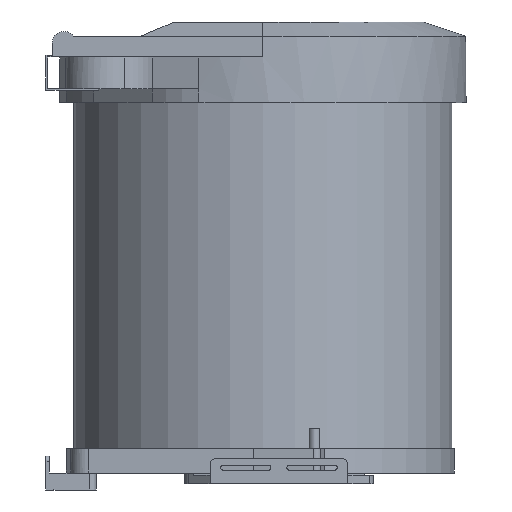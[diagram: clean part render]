
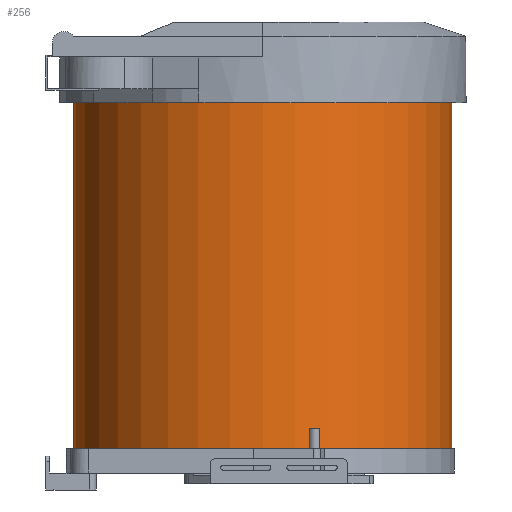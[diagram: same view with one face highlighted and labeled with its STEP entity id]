
A CAD part, front view. The second image highlights one B-rep face of the part: STEP entity #256.
In plain terms, the highlighted cylindrical face has radius 178.5 mm (diameter 357 mm), a partial arc.
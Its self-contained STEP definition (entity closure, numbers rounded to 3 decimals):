
#256=ADVANCED_FACE('',(#637),#638,.T.);
#637=FACE_OUTER_BOUND('',#1161,.T.);
#638=CYLINDRICAL_SURFACE('',#1162,178.5);
#1161=EDGE_LOOP('',(#1885,#1886,#1887,#1888));
#1162=AXIS2_PLACEMENT_3D('',#1889,#1890,#1891);
#1885=ORIENTED_EDGE('',*,*,#3233,.F.);
#1886=ORIENTED_EDGE('',*,*,#3234,.F.);
#1887=ORIENTED_EDGE('',*,*,#3235,.F.);
#1888=ORIENTED_EDGE('',*,*,#3236,.T.);
#1889=CARTESIAN_POINT('',(204.4,199.4,39.0));
#1890=DIRECTION('',(0.0,0.0,1.0));
#1891=DIRECTION('',(-1.0,0.,0.0));
#3233=EDGE_CURVE('',#3911,#3912,#3913,.T.);
#3234=EDGE_CURVE('',#3914,#3911,#3915,.T.);
#3235=EDGE_CURVE('',#3916,#3914,#3917,.T.);
#3236=EDGE_CURVE('',#3916,#3912,#3918,.T.);
#3911=VERTEX_POINT('',#4871);
#3912=VERTEX_POINT('',#4872);
#3913=LINE('',#4873,#4874);
#3914=VERTEX_POINT('',#4875);
#3915=CIRCLE('',#4876,178.5);
#3916=VERTEX_POINT('',#4877);
#3917=LINE('',#4878,#4879);
#3918=CIRCLE('',#4880,178.5);
#4871=CARTESIAN_POINT('',(25.9,199.4,39.0));
#4872=CARTESIAN_POINT('',(25.9,199.4,365.5));
#4873=CARTESIAN_POINT('',(25.9,199.4,39.0));
#4874=VECTOR('',#5940,1.0);
#4875=CARTESIAN_POINT('',(382.9,199.4,39.0));
#4876=AXIS2_PLACEMENT_3D('',#5941,#5942,#5943);
#4877=CARTESIAN_POINT('',(382.9,199.4,365.5));
#4878=CARTESIAN_POINT('',(382.9,199.4,39.0));
#4879=VECTOR('',#5944,1.0);
#4880=AXIS2_PLACEMENT_3D('',#5945,#5946,#5947);
#5940=DIRECTION('',(0.0,0.0,1.0));
#5941=CARTESIAN_POINT('',(204.4,199.4,39.0));
#5942=DIRECTION('',(0.,0.,-1.0));
#5943=DIRECTION('',(-1.0,0.,0.0));
#5944=DIRECTION('',(-0.0,-0.0,-1.0));
#5945=CARTESIAN_POINT('',(204.4,199.4,365.5));
#5946=DIRECTION('',(0.,0.,-1.0));
#5947=DIRECTION('',(-1.0,0.,0.0));
